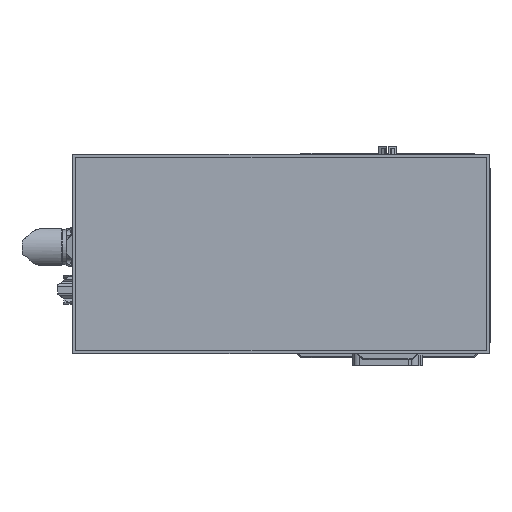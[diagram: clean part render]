
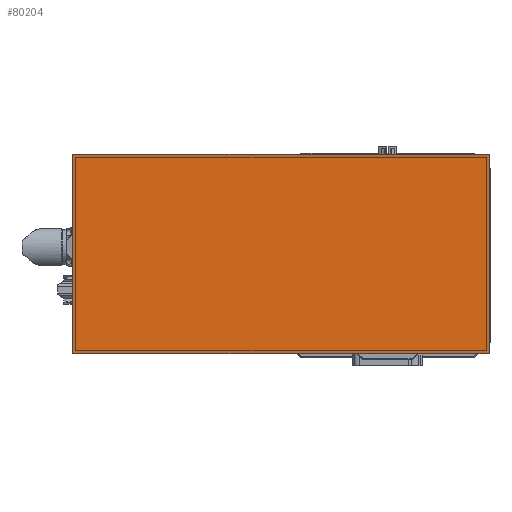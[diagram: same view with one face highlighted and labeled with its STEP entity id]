
A CAD part, top view. The second image highlights one B-rep face of the part: STEP entity #80204.
In plain terms, the highlighted planar face has unit normal (0, 0, 1).
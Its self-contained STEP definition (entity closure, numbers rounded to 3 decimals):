
#80165=CARTESIAN_POINT('',(-75.5,-77.,621.));
#80166=DIRECTION('',(0.,-1.,0.));
#80167=DIRECTION('',(-0.,0.,1.));
#80168=AXIS2_PLACEMENT_3D('',#80165,#80167,#80166);
#80169=PLANE('',#80168);
#80170=CARTESIAN_POINT('',(72.,70.5,621.));
#80171=VERTEX_POINT('',#80170);
#80172=CARTESIAN_POINT('',(-223.,70.5,621.));
#80173=VERTEX_POINT('',#80172);
#80174=CARTESIAN_POINT('',(72.,70.5,621.));
#80175=DIRECTION('',(-1.,0.,0.));
#80176=VECTOR('',#80175,295.);
#80177=LINE('',#80174,#80176);
#80178=EDGE_CURVE('',#80171,#80173,#80177,.T.);
#80179=ORIENTED_EDGE('E8925',*,*,#80178,.T.);
#80180=CARTESIAN_POINT('',(-223.,-70.5,621.));
#80181=VERTEX_POINT('',#80180);
#80182=CARTESIAN_POINT('',(-223.,70.5,621.));
#80183=DIRECTION('',(0.,-1.,0.));
#80184=VECTOR('',#80183,141.);
#80185=LINE('',#80182,#80184);
#80186=EDGE_CURVE('',#80173,#80181,#80185,.T.);
#80187=ORIENTED_EDGE('E8926',*,*,#80186,.T.);
#80188=CARTESIAN_POINT('',(72.,-70.5,621.));
#80189=VERTEX_POINT('',#80188);
#80190=CARTESIAN_POINT('',(-223.,-70.5,621.));
#80191=DIRECTION('',(1.,0.,0.));
#80192=VECTOR('',#80191,295.);
#80193=LINE('',#80190,#80192);
#80194=EDGE_CURVE('',#80181,#80189,#80193,.T.);
#80195=ORIENTED_EDGE('E8927',*,*,#80194,.T.);
#80196=CARTESIAN_POINT('',(72.,-70.5,621.));
#80197=DIRECTION('',(0.,1.,0.));
#80198=VECTOR('',#80197,141.);
#80199=LINE('',#80196,#80198);
#80200=EDGE_CURVE('',#80189,#80171,#80199,.T.);
#80201=ORIENTED_EDGE('E8928',*,*,#80200,.T.);
#80202=EDGE_LOOP('',(#80179,#80187,#80195,#80201));
#80203=FACE_OUTER_BOUND('',#80202,.T.);
#80204=ADVANCED_FACE('F3469',(#80203),#80169,.T.);
